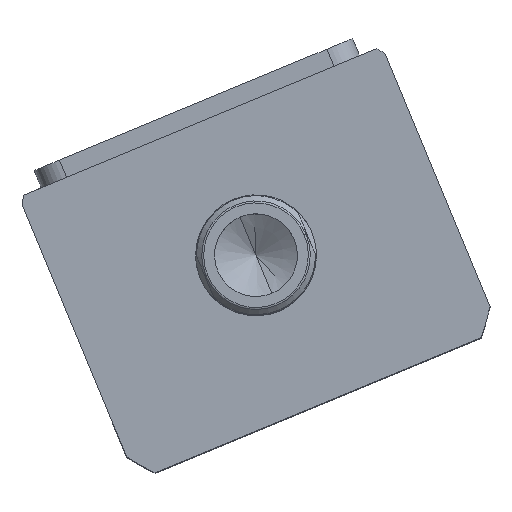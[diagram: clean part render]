
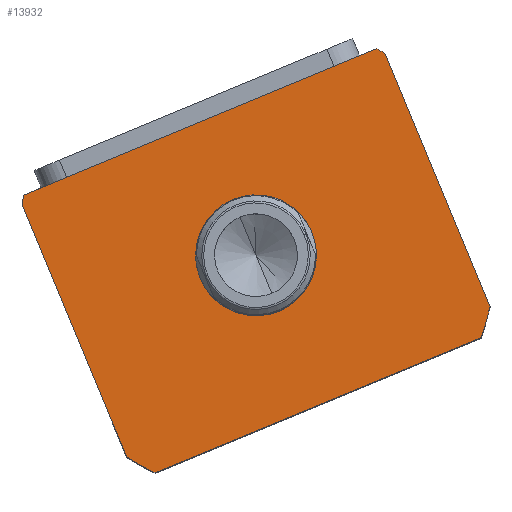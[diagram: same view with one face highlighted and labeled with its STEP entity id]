
A CAD part, top view. The second image highlights one B-rep face of the part: STEP entity #13932.
In plain terms, the highlighted planar face has unit normal (0, 0, 1) as drawn and (0, 0, -1) by its records, which use the part's own axes.
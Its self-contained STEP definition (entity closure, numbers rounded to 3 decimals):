
#541 = VERTEX_POINT ( 'NONE', #16878 ) ;
#631 = DIRECTION ( 'NONE',  ( 1., 0., 0. ) ) ;
#792 = CARTESIAN_POINT ( 'NONE',  ( -51.198, -106.497, 0. ) ) ;
#827 = ORIENTED_EDGE ( 'NONE', *, *, #15502, .T. ) ;
#1264 = AXIS2_PLACEMENT_3D ( 'NONE', #7619, #17677, #9074 ) ;
#1312 = ORIENTED_EDGE ( 'NONE', *, *, #3287, .F. ) ;
#1590 = CARTESIAN_POINT ( 'NONE',  ( -55.374, -17.497, 0. ) ) ;
#1768 = ORIENTED_EDGE ( 'NONE', *, *, #5336, .F. ) ;
#1804 = DIRECTION ( 'NONE',  ( 1., 0., 0. ) ) ;
#2314 = CARTESIAN_POINT ( 'NONE',  ( 17.5, -59.497, 0. ) ) ;
#2814 = AXIS2_PLACEMENT_3D ( 'NONE', #7208, #17263, #8677 ) ;
#2892 = LINE ( 'NONE', #16889, #9723 ) ;
#3287 = EDGE_CURVE ( 'NONE', #10882, #5491, #10041, .T. ) ;
#3311 = CARTESIAN_POINT ( 'NONE',  ( 0., -59.497, 0. ) ) ;
#3803 = ORIENTED_EDGE ( 'NONE', *, *, #16699, .F. ) ;
#3832 = VERTEX_POINT ( 'NONE', #5944 ) ;
#3914 = CIRCLE ( 'NONE', #13500, 17.5 ) ;
#4067 = VERTEX_POINT ( 'NONE', #5102 ) ;
#4275 = ORIENTED_EDGE ( 'NONE', *, *, #13334, .F. ) ;
#4749 = EDGE_CURVE ( 'NONE', #5491, #4067, #2892, .T. ) ;
#4763 = CARTESIAN_POINT ( 'NONE',  ( 0., -59.497, 0. ) ) ;
#4771 = DIRECTION ( 'NONE',  ( 0., 0., 1. ) ) ;
#4792 = DIRECTION ( 'NONE',  ( 1., 0., 0. ) ) ;
#4998 = ORIENTED_EDGE ( 'NONE', *, *, #18670, .F. ) ;
#5102 = CARTESIAN_POINT ( 'NONE',  ( -57., -99.262, 0. ) ) ;
#5336 = EDGE_CURVE ( 'NONE', #8884, #541, #10423, .T. ) ;
#5491 = VERTEX_POINT ( 'NONE', #14499 ) ;
#5944 = CARTESIAN_POINT ( 'NONE',  ( -17.5, -59.497, 0. ) ) ;
#6048 = VECTOR ( 'NONE', #13246, 1000. ) ;
#6224 = DIRECTION ( 'NONE',  ( 1., 0., 0. ) ) ;
#6518 = LINE ( 'NONE', #14865, #13738 ) ;
#6525 = VECTOR ( 'NONE', #8564, 1000. ) ;
#6980 = LINE ( 'NONE', #18614, #6525 ) ;
#7208 = CARTESIAN_POINT ( 'NONE',  ( 0., -59.497, 0. ) ) ;
#7217 = FACE_OUTER_BOUND ( 'NONE', #17757, .T. ) ;
#7398 = CARTESIAN_POINT ( 'NONE',  ( -57., -17.497, 0. ) ) ;
#7535 = VERTEX_POINT ( 'NONE', #2314 ) ;
#7619 = CARTESIAN_POINT ( 'NONE',  ( 0., -59.497, 0. ) ) ;
#7634 = CARTESIAN_POINT ( 'NONE',  ( 0., -59.497, 0. ) ) ;
#7868 = VERTEX_POINT ( 'NONE', #792 ) ;
#7928 = PLANE ( 'NONE',  #13910 ) ;
#8078 = EDGE_LOOP ( 'NONE', ( #15336, #827 ) ) ;
#8124 = CIRCLE ( 'NONE', #1264, 69.5 ) ;
#8407 = ORIENTED_EDGE ( 'NONE', *, *, #8655, .F. ) ;
#8564 = DIRECTION ( 'NONE',  ( 0., 1., 0. ) ) ;
#8655 = EDGE_CURVE ( 'NONE', #7868, #8884, #6518, .T. ) ;
#8677 = DIRECTION ( 'NONE',  ( 1., 0., 0. ) ) ;
#8884 = VERTEX_POINT ( 'NONE', #10073 ) ;
#9074 = DIRECTION ( 'NONE',  ( 1., 0., 0. ) ) ;
#9090 = DIRECTION ( 'NONE',  ( 1., 0., 0. ) ) ;
#9373 = DIRECTION ( 'NONE',  ( 0., 0., 1. ) ) ;
#9723 = VECTOR ( 'NONE', #9736, 1000. ) ;
#9736 = DIRECTION ( 'NONE',  ( 0., -1., 0. ) ) ;
#9888 = LINE ( 'NONE', #7398, #6048 ) ;
#10041 = CIRCLE ( 'NONE', #15640, 69.5 ) ;
#10073 = CARTESIAN_POINT ( 'NONE',  ( 51.198, -106.497, 0. ) ) ;
#10423 = CIRCLE ( 'NONE', #2814, 69.5 ) ;
#10720 = VERTEX_POINT ( 'NONE', #17156 ) ;
#10882 = VERTEX_POINT ( 'NONE', #1590 ) ;
#11107 = ORIENTED_EDGE ( 'NONE', *, *, #4749, .F. ) ;
#11398 = VERTEX_POINT ( 'NONE', #12900 ) ;
#11673 = EDGE_CURVE ( 'NONE', #7535, #3832, #3914, .T. ) ;
#12900 = CARTESIAN_POINT ( 'NONE',  ( 57., -19.732, 0. ) ) ;
#13217 = AXIS2_PLACEMENT_3D ( 'NONE', #13434, #4771, #14872 ) ;
#13246 = DIRECTION ( 'NONE',  ( -1., 0., 0. ) ) ;
#13334 = EDGE_CURVE ( 'NONE', #541, #11398, #6980, .T. ) ;
#13434 = CARTESIAN_POINT ( 'NONE',  ( 0., -59.497, 0. ) ) ;
#13451 = DIRECTION ( 'NONE',  ( 0., 0., 1. ) ) ;
#13500 = AXIS2_PLACEMENT_3D ( 'NONE', #7634, #17692, #9090 ) ;
#13577 = CARTESIAN_POINT ( 'NONE',  ( 0., 0., 0. ) ) ;
#13712 = EDGE_CURVE ( 'NONE', #4067, #7868, #8124, .T. ) ;
#13738 = VECTOR ( 'NONE', #1804, 1000. ) ;
#13910 = AXIS2_PLACEMENT_3D ( 'NONE', #13577, #9373, #631 ) ;
#13932 = ADVANCED_FACE ( 'NONE', ( #17500, #7217 ), #7928, .F. ) ;
#14003 = ORIENTED_EDGE ( 'NONE', *, *, #13712, .F. ) ;
#14499 = CARTESIAN_POINT ( 'NONE',  ( -57., -19.732, 0. ) ) ;
#14863 = DIRECTION ( 'NONE',  ( 0., 0., 1. ) ) ;
#14865 = CARTESIAN_POINT ( 'NONE',  ( -57., -106.497, 0. ) ) ;
#14872 = DIRECTION ( 'NONE',  ( 1., 0., 0. ) ) ;
#15336 = ORIENTED_EDGE ( 'NONE', *, *, #11673, .T. ) ;
#15502 = EDGE_CURVE ( 'NONE', #3832, #7535, #17096, .T. ) ;
#15640 = AXIS2_PLACEMENT_3D ( 'NONE', #3311, #13451, #4792 ) ;
#16107 = AXIS2_PLACEMENT_3D ( 'NONE', #4763, #14863, #6224 ) ;
#16699 = EDGE_CURVE ( 'NONE', #11398, #10720, #17063, .T. ) ;
#16878 = CARTESIAN_POINT ( 'NONE',  ( 57., -99.262, 0. ) ) ;
#16889 = CARTESIAN_POINT ( 'NONE',  ( -57., -17.497, 0. ) ) ;
#17063 = CIRCLE ( 'NONE', #16107, 69.5 ) ;
#17096 = CIRCLE ( 'NONE', #13217, 17.5 ) ;
#17156 = CARTESIAN_POINT ( 'NONE',  ( 55.374, -17.497, 0. ) ) ;
#17263 = DIRECTION ( 'NONE',  ( 0., 0., 1. ) ) ;
#17500 = FACE_BOUND ( 'NONE', #8078, .T. ) ;
#17677 = DIRECTION ( 'NONE',  ( 0., 0., 1. ) ) ;
#17692 = DIRECTION ( 'NONE',  ( 0., 0., 1. ) ) ;
#17757 = EDGE_LOOP ( 'NONE', ( #3803, #4275, #1768, #8407, #14003, #11107, #1312, #4998 ) ) ;
#18614 = CARTESIAN_POINT ( 'NONE',  ( 57., -17.497, 0. ) ) ;
#18670 = EDGE_CURVE ( 'NONE', #10720, #10882, #9888, .T. ) ;
